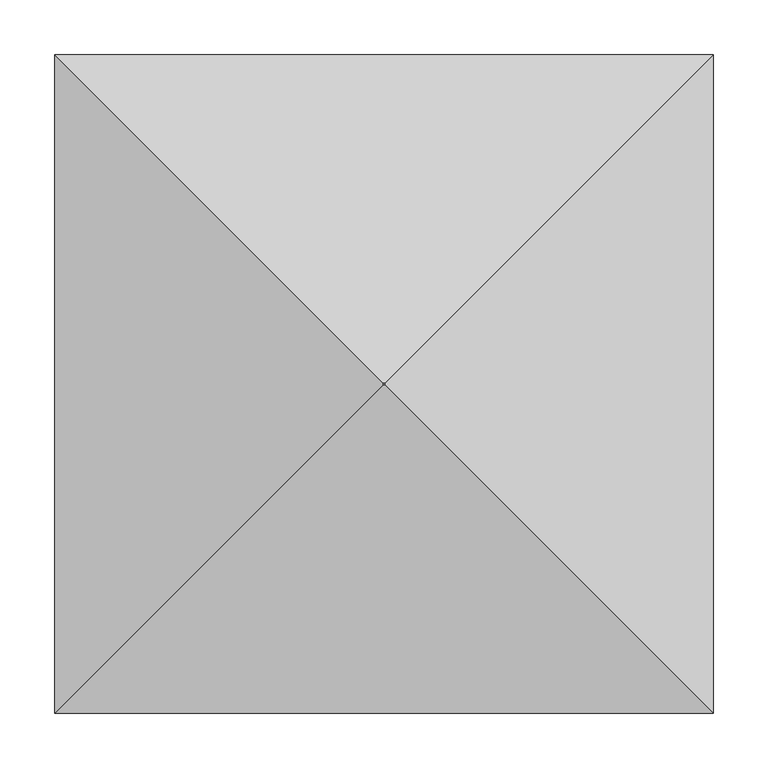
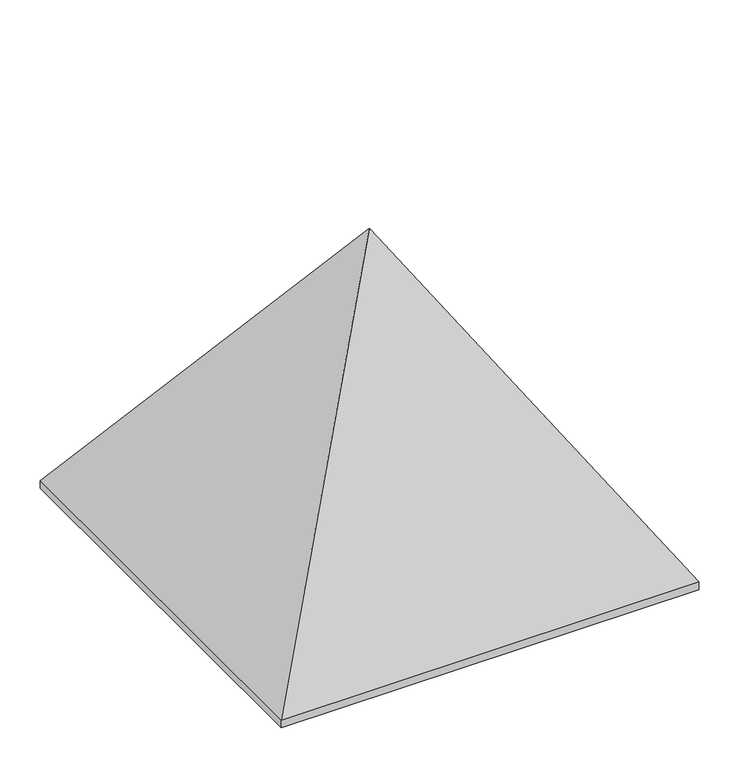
"""IFC4 building model written with IfcOpenShell, lengths in millimetres: proxy geometry, Offecct - Spiegel Panel - High : Offecct - Spiegel Panel - High."""

from ifc_helpers import new_model, si_unit, origin, origin_with_axes, place, context, project, spatial, polyline, outline, extrude, faceted_brep, source, transform, mapped, element, save


def generic_models_96c18039(model_context):
    return source(origin(), model_context, "Body", "SolidModel", [
        faceted_brep([(0.5, 0.5, 470.8109243), (-0.5, 0.5, 470.8109243), (-0.5, -0.5, 470.8109243), (0.5, -0.5, 470.8109243), (300.0, 300.0, 11.5689886), (300.0, -300.0, 11.5689886), (-300.0, -300.0, 11.5689886), (-300.0, 300.0, 11.5689886)], [[[0, 1, 2, 3]], [[4, 5, 6, 7]], [[4, 7, 1, 0]], [[7, 6, 2, 1]], [[6, 5, 3, 2]], [[5, 4, 0, 3]]]),
        extrude(outline(polyline([(-300.0, 300.0), (300.0, 300.0), (300.0, -300.0), (-300.0, -300.0), (-300.0, 300.0)])), origin_with_axes(), (0.0, 0.0, 1.0), 11.5689886),
    ])


if __name__ == "__main__":
    model = new_model("IFC4")
    model_context = context("Model", 3, world=origin())
    ifc_project = project(units=[si_unit("LENGTHUNIT", "METRE", prefix="MILLI")], contexts=[model_context])
    site = spatial("IfcSite", under=ifc_project)
    building = spatial("IfcBuilding", under=site)
    placement = place(None, origin())
    generic_models_shape = generic_models_96c18039(model_context)
    element("IfcBuildingElementProxy", 1, Name="Offecct - Spiegel Panel - High : Offecct - Spiegel Panel - High", ObjectType="Offecct - Spiegel Panel - High : Offecct - Spiegel Panel - High", at=placement, inside=building, context=model_context, shape_type="MappedRepresentation", body=[
        mapped(generic_models_shape, transform((0.0, 0.0, 0.0), x_axis=(1.0, 0.0, 0.0), y_axis=(0.0, 1.0, 0.0), z_axis=(0.0, 0.0, 1.0))),
    ])
    save(model, "model.ifc")
